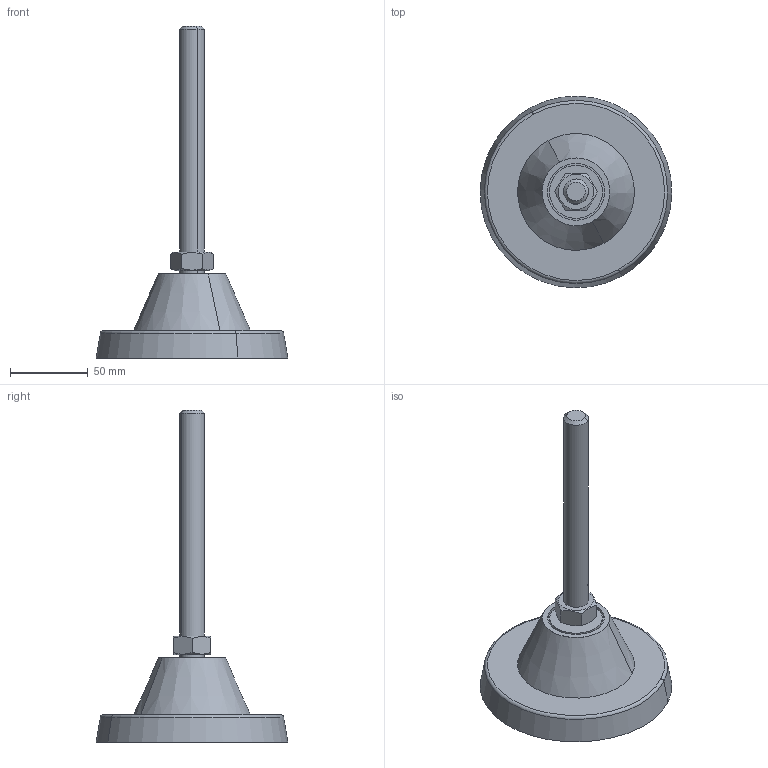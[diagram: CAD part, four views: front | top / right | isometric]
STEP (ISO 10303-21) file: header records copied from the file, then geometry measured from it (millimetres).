
FILE_DESCRIPTION(('CATIA V5 STEP Exchange'),'2;1');
FILE_NAME('C:\Users\ALI OZGUN\Desktop\alhan\ARTICULATED_FEET-PABUCLAR\502121621.stp','2017-09-08T06:28:18+00:00',('none'),('none'),'CATIA Version 5 Release 21 GA (IN-10)','CATIA V5 STEP AP203','none');
FILE_SCHEMA(('CONFIG_CONTROL_DESIGN'));
Length unit declared in the file: millimetre
Products named in the file (1): 502121621
Bounding box: 122.97 x 122.97 x 213 mm (x, y, z)
Volume: 198143.2 mm3; surface area: 71736.6 mm2
Topology: 3 solids, 3 shells, 127 faces, 330 edges, 216 vertices
Faces by surface type: plane 61, cylinder 32, cone 30, torus 2, sphere 2
Entity records: 3851 total; most frequent: CARTESIAN_POINT 1199, ORIENTED_EDGE 660, DIRECTION 330, EDGE_CURVE 330, VERTEX_POINT 216, AXIS2_PLACEMENT_3D 168, EDGE_LOOP 138, ADVANCED_FACE 127
